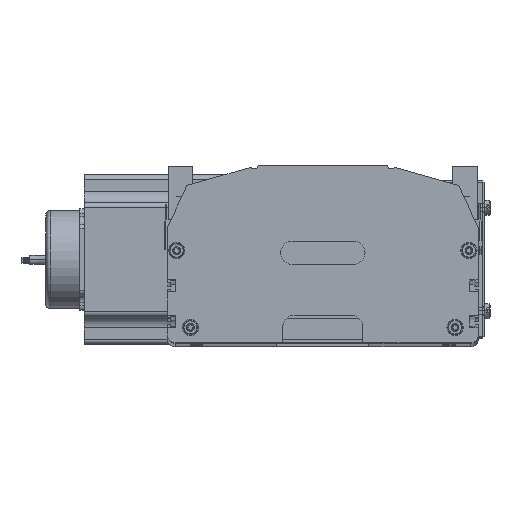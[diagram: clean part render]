
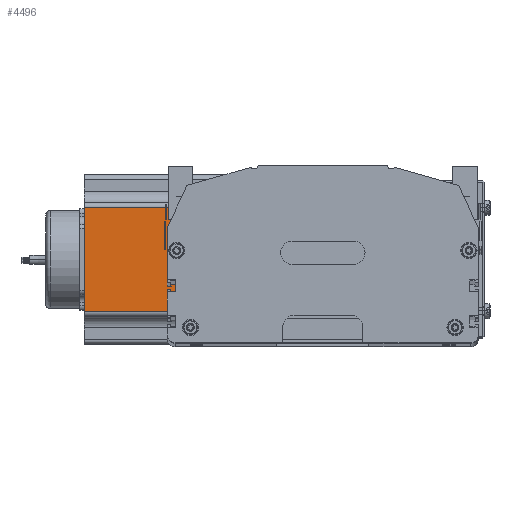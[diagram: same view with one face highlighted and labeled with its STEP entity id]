
A CAD part, top view. The second image highlights one B-rep face of the part: STEP entity #4496.
In plain terms, the highlighted planar face has unit normal (0, 0, 1) as drawn and (0, -1, 0) by its records, which use the part's own axes.
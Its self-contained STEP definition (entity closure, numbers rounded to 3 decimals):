
#4309 = ORIENTED_EDGE ( 'NONE', *, *, #4503, .T. ) ;
#4426 = EDGE_LOOP ( 'NONE', ( #4498, #4500, #4433, #4309 ) ) ;
#4430 = VERTEX_POINT ( 'NONE', #76225 ) ;
#4431 = VERTEX_POINT ( 'NONE', #76224 ) ;
#4433 = ORIENTED_EDGE ( 'NONE', *, *, #4501, .F. ) ;
#4483 = EDGE_CURVE ( 'NONE', #4430, #4431, #76318, .T. ) ;
#4486 = VERTEX_POINT ( 'NONE', #76351 ) ;
#4496 = ADVANCED_FACE ( 'NONE', ( #76399 ), #76361, .F. ) ;
#4497 = VERTEX_POINT ( 'NONE', #76391 ) ;
#4498 = ORIENTED_EDGE ( 'NONE', *, *, #4483, .T. ) ;
#4499 = EDGE_CURVE ( 'NONE', #4431, #4486, #76389, .T. ) ;
#4500 = ORIENTED_EDGE ( 'NONE', *, *, #4499, .T. ) ;
#4501 = EDGE_CURVE ( 'NONE', #4497, #4486, #76384, .T. ) ;
#4503 = EDGE_CURVE ( 'NONE', #4497, #4430, #76390, .T. ) ;
#76224 = CARTESIAN_POINT ( 'NONE',  ( 88.952, 0., 0. ) ) ;
#76225 = CARTESIAN_POINT ( 'NONE',  ( 21.048, 0., 0. ) ) ;
#76318 = LINE ( 'NONE', #76362, #76353 ) ;
#76350 = CARTESIAN_POINT ( 'NONE',  ( 0., 0., 160.5 ) ) ;
#76351 = CARTESIAN_POINT ( 'NONE',  ( 88.952, 0., 160.5 ) ) ;
#76352 = DIRECTION ( 'NONE',  ( 1., 0., 0. ) ) ;
#76353 = VECTOR ( 'NONE', #76352, 1000. ) ;
#76356 = DIRECTION ( 'NONE',  ( 0., 0., 1. ) ) ;
#76361 = PLANE ( 'NONE',  #76393 ) ;
#76362 = CARTESIAN_POINT ( 'NONE',  ( 0., 0., 0. ) ) ;
#76378 = DIRECTION ( 'NONE',  ( 0., 0., -1. ) ) ;
#76379 = VECTOR ( 'NONE', #76378, 1000. ) ;
#76380 = CARTESIAN_POINT ( 'NONE',  ( 21.048, 0., 160.5 ) ) ;
#76381 = DIRECTION ( 'NONE',  ( 1., 0., 0. ) ) ;
#76382 = VECTOR ( 'NONE', #76381, 1000. ) ;
#76383 = CARTESIAN_POINT ( 'NONE',  ( 0., 0., 160.5 ) ) ;
#76384 = LINE ( 'NONE', #76383, #76382 ) ;
#76386 = DIRECTION ( 'NONE',  ( 0., 0., 1. ) ) ;
#76387 = VECTOR ( 'NONE', #76386, 1000. ) ;
#76388 = CARTESIAN_POINT ( 'NONE',  ( 88.952, 0., 160.5 ) ) ;
#76389 = LINE ( 'NONE', #76388, #76387 ) ;
#76390 = LINE ( 'NONE', #76380, #76379 ) ;
#76391 = CARTESIAN_POINT ( 'NONE',  ( 21.048, 0., 160.5 ) ) ;
#76393 = AXIS2_PLACEMENT_3D ( 'NONE', #76350, #76398, #76356 ) ;
#76398 = DIRECTION ( 'NONE',  ( 0., 1., 0. ) ) ;
#76399 = FACE_OUTER_BOUND ( 'NONE', #4426, .T. ) ;
